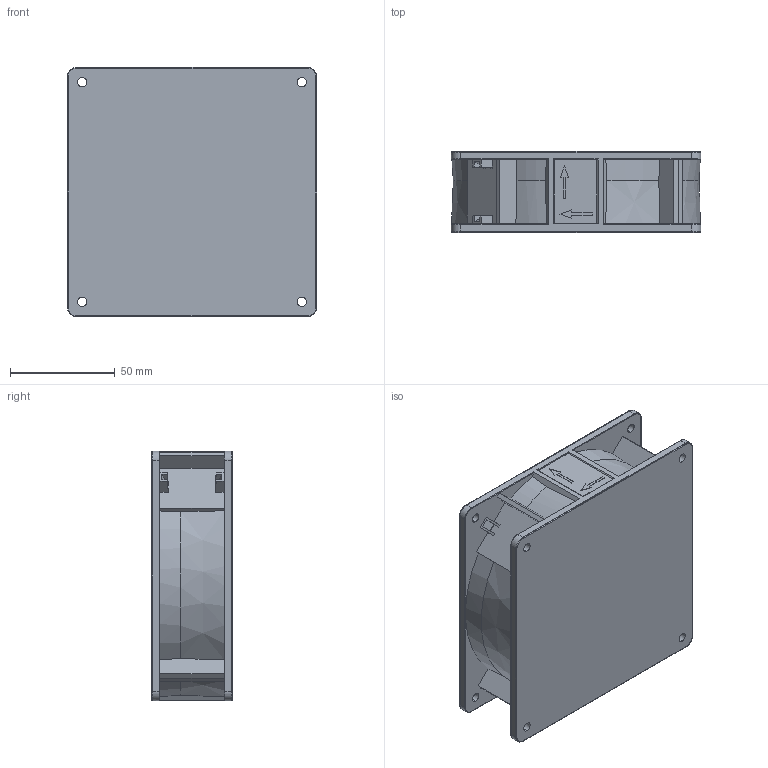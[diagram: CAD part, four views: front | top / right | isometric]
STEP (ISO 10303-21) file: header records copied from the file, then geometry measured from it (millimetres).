
FILE_DESCRIPTION (( 'STEP AP214' ), '1' );
FILE_NAME ('A12B23HWBW.STEP', '2023-11-14T10:10:34', ( '' ), ( '' ), 'SwSTEP 2.0', 'SolidWorks 2022', '' );
FILE_SCHEMA (( 'AUTOMOTIVE_DESIGN' ));
Length unit declared in the file: millimetre
Products named in the file (1): A12B23HWBW
Bounding box: 119 x 38.6 x 119 mm (x, y, z)
Volume: 454338.6 mm3; surface area: 51900.2 mm2
Topology: 1 solids, 1 shells, 197 faces, 550 edges, 365 vertices
Faces by surface type: plane 99, cylinder 55, cone 21, bspline 20, torus 2
Entity records: 12727 total; most frequent: CARTESIAN_POINT 7818, ORIENTED_EDGE 1100, DIRECTION 896, EDGE_CURVE 550, VERTEX_POINT 365, LINE 306, VECTOR 306, AXIS2_PLACEMENT_3D 295
